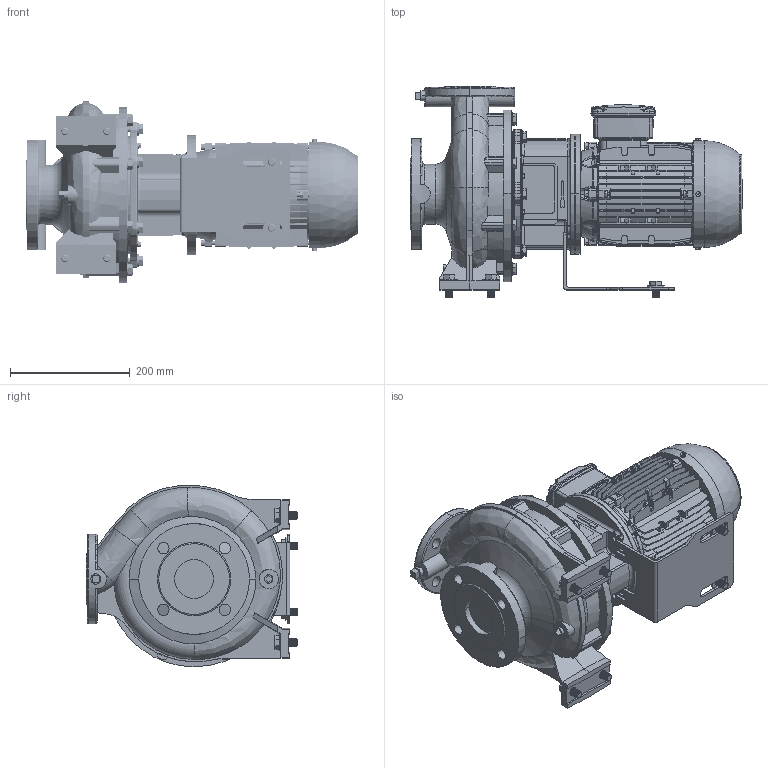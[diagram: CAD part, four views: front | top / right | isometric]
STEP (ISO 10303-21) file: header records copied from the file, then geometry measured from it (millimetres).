
FILE_DESCRIPTION (( 'STEP AP214' ), '1' );
FILE_NAME ('GSD4 40-200_1.1 & 1.5_(90SL)_W21.STEP', '2026-06-18T05:43:44', ( '' ), ( '' ), 'SwSTEP 2.0', 'SolidWorks 2024', '' );
FILE_SCHEMA (( 'AUTOMOTIVE_DESIGN' ));
Length unit declared in the file: millimetre
Products named in the file (7): GSD4 40-200_1.1 & 1.5_(90SL)_W21; Parametric bolt_SFT-A295B; Parametric Flat Washer_M12; 90S_L ALIE3_W21T_B5; CGSD1-4153; Parametric bolt_SFT-A299B; 40-200-90S_L_ﾃﾞﾌｫﾙﾄ
Assembly tree (15 placements, depth 2):
  GSD4 40-200_1.1 & 1.5_(90SL)_W21
    40-200-90S_L_ﾃﾞﾌｫﾙﾄ
    90S_L ALIE3_W21T_B5
    CGSD1-4153
    Parametric bolt_SFT-A299B  x4
    Parametric bolt_SFT-A295B  x2
    Parametric Flat Washer_M12  x6
Bounding box: 554 x 353 x 303.03 mm (x, y, z)
Volume: 14544286.4 mm3; surface area: 1182792.4 mm2
Topology: 18 solids, 22 shells, 3846 faces, 10109 edges, 6500 vertices
Faces by surface type: plane 1984, cylinder 1078, torus 303, bspline 258, cone 201, sphere 22
Entity records: 192384 total; most frequent: CARTESIAN_POINT 106036, ORIENTED_EDGE 18860, DIRECTION 16634, EDGE_CURVE 9430, VERTEX_POINT 6087, AXIS2_PLACEMENT_3D 5607, LINE 5420, VECTOR 5420
